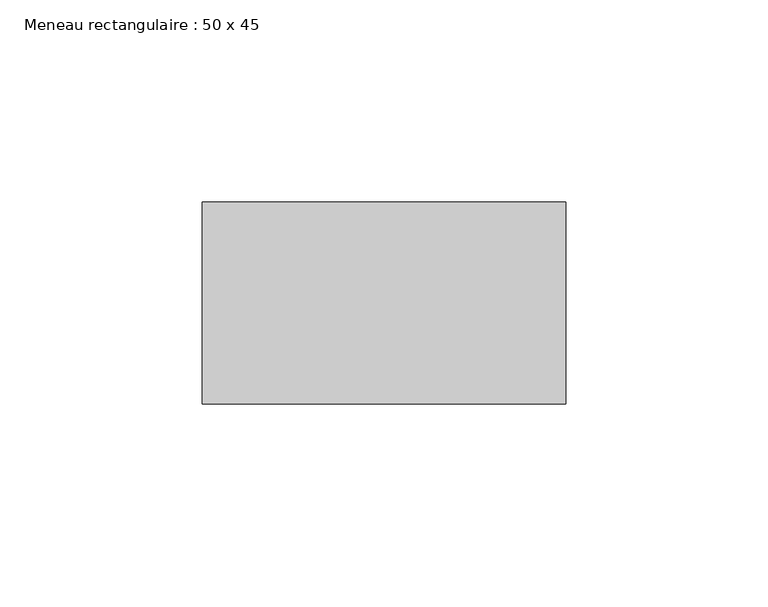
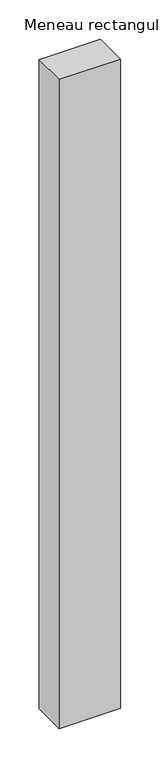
"""IFC4 building model written with IfcOpenShell, lengths in millimetres: member geometry, Meneau rectangulaire : 50 x 45."""

from ifc_helpers import new_model, si_unit, frame, origin, place, context, project, spatial, polyline, outline, extrude, source, transform, mapped, element, save


def meneau_rectangulaire_50_x_45_1c4f6a11(model_context):
    return source(origin(), model_context, "Body", "SweptSolid", [
        extrude(outline(polyline([(0.0, 0.0), (0.0, -50.0), (-90.0, -50.0), (-90.0, 0.0), (0.0, 0.0)])), frame((0.0, 0.0, -1004.7450745), z_axis=(0.0, 0.0, 1.0), x_axis=(1.0, 0.0, 0.0)), (0.0, 0.0, 1.0), 1004.7450745),
    ])


if __name__ == "__main__":
    model = new_model("IFC4")
    model_context = context("Model", 3, world=origin())
    ifc_project = project(units=[si_unit("LENGTHUNIT", "METRE", prefix="MILLI")], contexts=[model_context])
    site = spatial("IfcSite", under=ifc_project)
    building = spatial("IfcBuilding", under=site)
    placement = place(None, origin())
    meneau_rectangulaire_50_x_45_shape = meneau_rectangulaire_50_x_45_1c4f6a11(model_context)
    element("IfcMember", 1, ObjectType="Meneau rectangulaire : 50 x 45", at=placement, inside=building, context=model_context, shape_type="MappedRepresentation", body=[
        mapped(meneau_rectangulaire_50_x_45_shape, transform((0.0, 0.0, 0.0), x_axis=(1.0, 0.0, 0.0), y_axis=(0.0, 1.0, 0.0), z_axis=(0.0, 0.0, 1.0))),
    ])
    save(model, "model.ifc")
